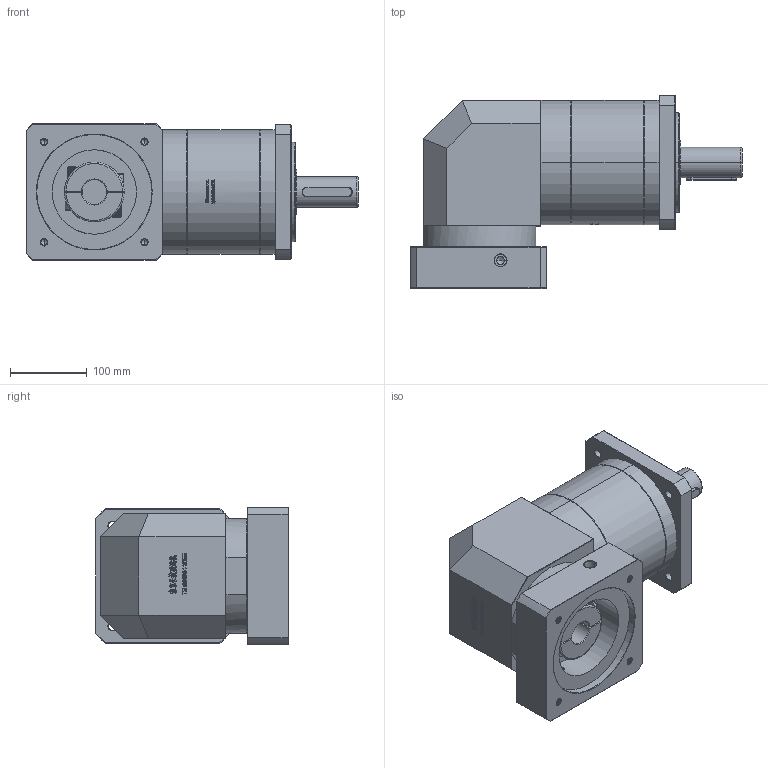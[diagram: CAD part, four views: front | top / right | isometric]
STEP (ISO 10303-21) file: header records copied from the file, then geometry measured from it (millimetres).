
FILE_DESCRIPTION (( 'STEP AP214' ), '1' );
FILE_NAME ('ZFR160A-D40-L3-32-150-185-M10.step', '2023-03-22T11:46:00', ( '' ), ( '' ), 'SwSTEP 2.0', 'SolidWorks 2016', '' );
FILE_SCHEMA (( 'AUTOMOTIVE_DESIGN' ));
Length unit declared in the file: millimetre
Products named in the file (1): ZFR160A-D40-L3-32-150-185-M10
Bounding box: 432.7 x 251.5 x 178 mm (x, y, z)
Volume: 8798468.5 mm3; surface area: 511216.1 mm2
Topology: 6 solids, 6 shells, 2520 faces, 6614 edges, 4248 vertices
Faces by surface type: plane 1273, bspline 501, cylinder 413, cone 311, torus 22
Entity records: 143745 total; most frequent: CARTESIAN_POINT 58342, ORIENTED_EDGE 13168, DIRECTION 10007, EDGE_CURVE 6584, VERTEX_POINT 4248, VECTOR 4155, LINE 4155, AXIS2_PLACEMENT_3D 2926
